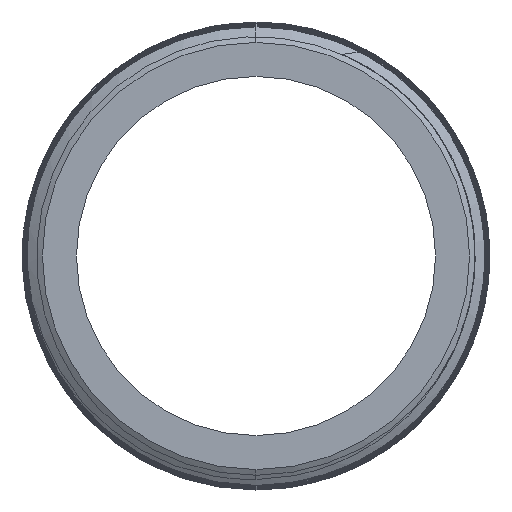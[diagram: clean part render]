
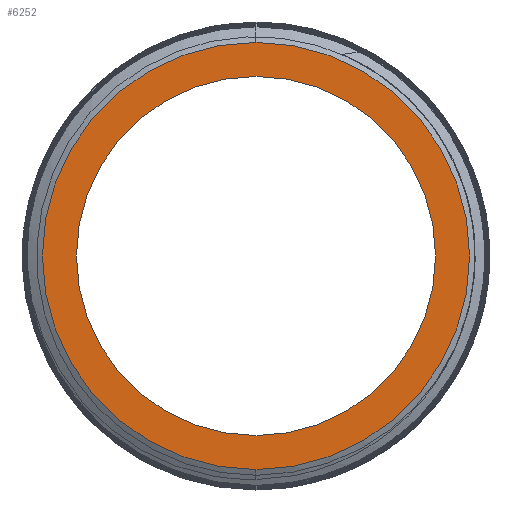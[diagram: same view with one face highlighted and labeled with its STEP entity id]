
A CAD part, left-side view. The second image highlights one B-rep face of the part: STEP entity #6252.
In plain terms, the highlighted planar face has unit normal (-1, 0, 0).
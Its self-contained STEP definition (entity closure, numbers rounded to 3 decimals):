
#80 = CARTESIAN_POINT ( 'NONE',  ( -125., 0., 0. ) ) ;
#124 = DIRECTION ( 'NONE',  ( 0., 0., 1. ) ) ;
#140 = CIRCLE ( 'NONE', #2020, 6.6 ) ;
#288 = CIRCLE ( 'NONE', #7197, 7.85 ) ;
#453 = DIRECTION ( 'NONE',  ( 1., 0., 0. ) ) ;
#871 = ORIENTED_EDGE ( 'NONE', *, *, #4638, .F. ) ;
#1213 = CARTESIAN_POINT ( 'NONE',  ( -125., 0., 6.6 ) ) ;
#1581 = DIRECTION ( 'NONE',  ( -1., 0., 0. ) ) ;
#1742 = DIRECTION ( 'NONE',  ( -1., 0., 0. ) ) ;
#1865 = DIRECTION ( 'NONE',  ( 0., 0., 1. ) ) ;
#2020 = AXIS2_PLACEMENT_3D ( 'NONE', #80, #7018, #124 ) ;
#2323 = DIRECTION ( 'NONE',  ( -1., 0., 0. ) ) ;
#2537 = VERTEX_POINT ( 'NONE', #5271 ) ;
#2705 = ORIENTED_EDGE ( 'NONE', *, *, #8398, .F. ) ;
#3169 = ORIENTED_EDGE ( 'NONE', *, *, #5104, .T. ) ;
#3605 = EDGE_LOOP ( 'NONE', ( #871, #2705 ) ) ;
#3758 = CIRCLE ( 'NONE', #4756, 6.6 ) ;
#3881 = VERTEX_POINT ( 'NONE', #1213 ) ;
#4325 = DIRECTION ( 'NONE',  ( 0., 0., 1. ) ) ;
#4481 = AXIS2_PLACEMENT_3D ( 'NONE', #5738, #2323, #8436 ) ;
#4638 = EDGE_CURVE ( 'NONE', #3881, #2537, #3758, .T. ) ;
#4756 = AXIS2_PLACEMENT_3D ( 'NONE', #5877, #1742, #1865 ) ;
#5104 = EDGE_CURVE ( 'NONE', #7302, #6800, #6623, .T. ) ;
#5143 = CARTESIAN_POINT ( 'NONE',  ( -125., 6.6, 0. ) ) ;
#5271 = CARTESIAN_POINT ( 'NONE',  ( -125., 0., -6.6 ) ) ;
#5738 = CARTESIAN_POINT ( 'NONE',  ( -125., 0., 0. ) ) ;
#5818 = DIRECTION ( 'NONE',  ( 0., 0., -1. ) ) ;
#5877 = CARTESIAN_POINT ( 'NONE',  ( -125., 0., 0. ) ) ;
#5903 = FACE_BOUND ( 'NONE', #3605, .T. ) ;
#6252 = ADVANCED_FACE ( 'NONE', ( #5903, #6535 ), #6622, .F. ) ;
#6535 = FACE_OUTER_BOUND ( 'NONE', #8058, .T. ) ;
#6622 = PLANE ( 'NONE',  #7788 ) ;
#6623 = CIRCLE ( 'NONE', #4481, 7.85 ) ;
#6800 = VERTEX_POINT ( 'NONE', #7241 ) ;
#7018 = DIRECTION ( 'NONE',  ( -1., 0., 0. ) ) ;
#7068 = CARTESIAN_POINT ( 'NONE',  ( -125., 0., 7.85 ) ) ;
#7197 = AXIS2_PLACEMENT_3D ( 'NONE', #7745, #1581, #4325 ) ;
#7241 = CARTESIAN_POINT ( 'NONE',  ( -125., 0., -7.85 ) ) ;
#7295 = EDGE_CURVE ( 'NONE', #6800, #7302, #288, .T. ) ;
#7302 = VERTEX_POINT ( 'NONE', #7068 ) ;
#7745 = CARTESIAN_POINT ( 'NONE',  ( -125., 0., 0. ) ) ;
#7788 = AXIS2_PLACEMENT_3D ( 'NONE', #5143, #453, #5818 ) ;
#8058 = EDGE_LOOP ( 'NONE', ( #8192, #3169 ) ) ;
#8192 = ORIENTED_EDGE ( 'NONE', *, *, #7295, .T. ) ;
#8398 = EDGE_CURVE ( 'NONE', #2537, #3881, #140, .T. ) ;
#8436 = DIRECTION ( 'NONE',  ( 0., 0., 1. ) ) ;
